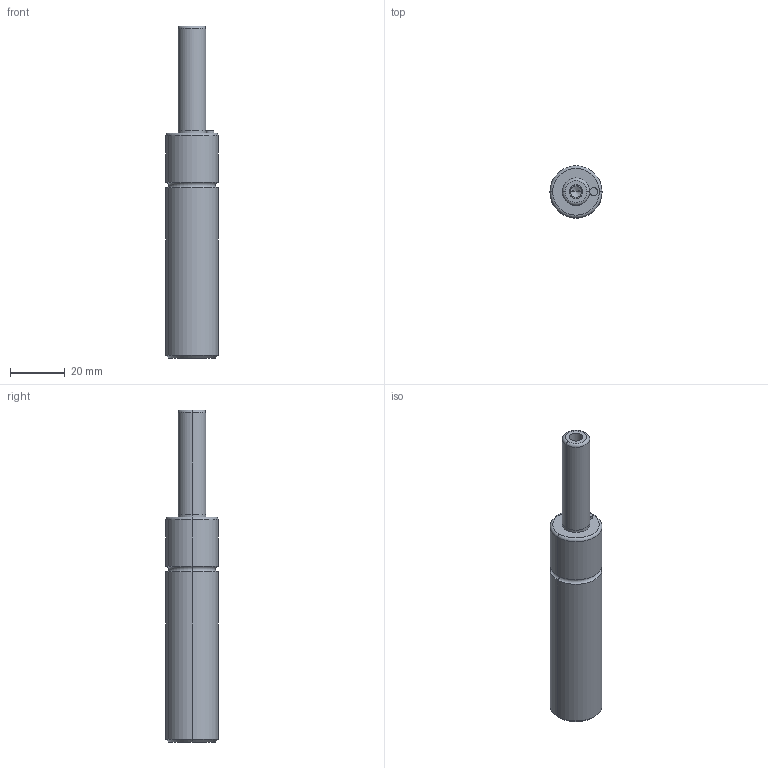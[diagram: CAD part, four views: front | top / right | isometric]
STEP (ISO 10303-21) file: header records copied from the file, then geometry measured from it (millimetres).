
FILE_DESCRIPTION(/* description */ (''),/* implementation_level */ '2;1');
FILE_NAME(/* name */ '3d_mgsa19-38_04547_r00.stp',/* time_stamp */ '2011-01-10T14:13:36+09:00',/* author */ ('MISUMI'),/* organization */ (''),/* preprocessor_version */ 'ST-DEVELOPER v11',/* originating_system */ 'UGS - NX 5.0',/* authorisation */ '');
FILE_SCHEMA (('CONFIG_CONTROL_DESIGN'));
Length unit declared in the file: millimetre
Products named in the file (1): 3d_mgsa19-38_04547_r00
Bounding box: 19 x 19 x 121 mm (x, y, z)
Volume: 25793 mm3; surface area: 6961.7 mm2
Topology: 1 solids, 1 shells, 36 faces, 74 edges, 42 vertices
Faces by surface type: cylinder 18, torus 6, cone 6, plane 6
Entity records: 1014 total; most frequent: DIRECTION 190, CARTESIAN_POINT 149, ORIENTED_EDGE 140, AXIS2_PLACEMENT_3D 83, EDGE_CURVE 70, CIRCLE 46, EDGE_LOOP 42, VERTEX_POINT 42
